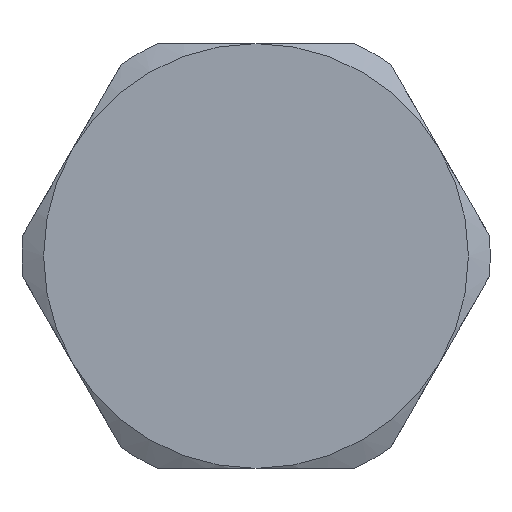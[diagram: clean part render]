
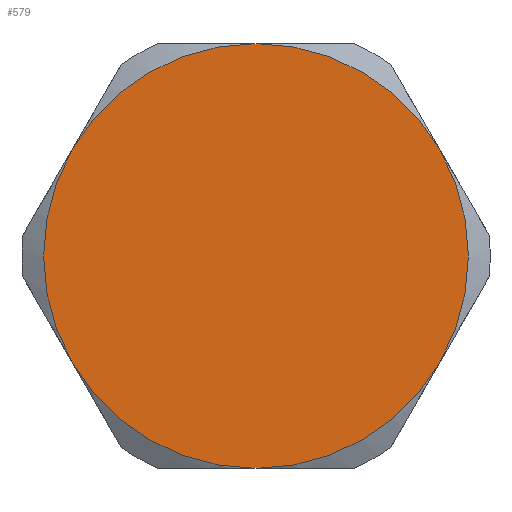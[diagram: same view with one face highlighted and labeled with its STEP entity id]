
A CAD part, left-side view. The second image highlights one B-rep face of the part: STEP entity #579.
In plain terms, the highlighted planar face has unit normal (-1, 0, 0).
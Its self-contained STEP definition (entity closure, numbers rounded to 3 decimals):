
#5 = DIRECTION ( 'NONE',  ( 1., 0., 0. ) ) ;
#10 = VERTEX_POINT ( 'NONE', #794 ) ;
#26 = CARTESIAN_POINT ( 'NONE',  ( -29., 36.806, 21.25 ) ) ;
#28 = EDGE_CURVE ( 'NONE', #869, #899, #841, .T. ) ;
#70 = AXIS2_PLACEMENT_3D ( 'NONE', #148, #192, #173 ) ;
#72 = DIRECTION ( 'NONE',  ( 1., 0., 0. ) ) ;
#81 = DIRECTION ( 'NONE',  ( 0., 1., 0. ) ) ;
#86 = CARTESIAN_POINT ( 'NONE',  ( -29., 0., 0. ) ) ;
#104 = ORIENTED_EDGE ( 'NONE', *, *, #865, .F. ) ;
#109 = CARTESIAN_POINT ( 'NONE',  ( -29., 0., 0. ) ) ;
#148 = CARTESIAN_POINT ( 'NONE',  ( -29., 0., 0. ) ) ;
#166 = VERTEX_POINT ( 'NONE', #181 ) ;
#169 = CARTESIAN_POINT ( 'NONE',  ( -29., 0., -42.5 ) ) ;
#173 = DIRECTION ( 'NONE',  ( 0., 1., 0. ) ) ;
#181 = CARTESIAN_POINT ( 'NONE',  ( -29., -36.806, 21.25 ) ) ;
#192 = DIRECTION ( 'NONE',  ( 1., 0., 0. ) ) ;
#222 = DIRECTION ( 'NONE',  ( 1., 0., 0. ) ) ;
#250 = AXIS2_PLACEMENT_3D ( 'NONE', #706, #5, #691 ) ;
#256 = DIRECTION ( 'NONE',  ( -1., 0., 0. ) ) ;
#262 = EDGE_CURVE ( 'NONE', #899, #973, #508, .T. ) ;
#289 = DIRECTION ( 'NONE',  ( 0., 1., 0. ) ) ;
#329 = ORIENTED_EDGE ( 'NONE', *, *, #262, .F. ) ;
#415 = DIRECTION ( 'NONE',  ( 1., 0., 0. ) ) ;
#439 = EDGE_LOOP ( 'NONE', ( #807, #329, #676, #104, #930, #806 ) ) ;
#470 = AXIS2_PLACEMENT_3D ( 'NONE', #109, #72, #804 ) ;
#481 = DIRECTION ( 'NONE',  ( 0., -1., 0. ) ) ;
#508 = CIRCLE ( 'NONE', #70, 42.5 ) ;
#516 = EDGE_CURVE ( 'NONE', #973, #10, #1070, .T. ) ;
#526 = PLANE ( 'NONE',  #1084 ) ;
#562 = CARTESIAN_POINT ( 'NONE',  ( -29., 42.5, 0. ) ) ;
#568 = DIRECTION ( 'NONE',  ( 0., 1., 0. ) ) ;
#572 = CARTESIAN_POINT ( 'NONE',  ( -29., 0., 0. ) ) ;
#575 = DIRECTION ( 'NONE',  ( 1., 0., 0. ) ) ;
#579 = ADVANCED_FACE ( 'NONE', ( #800 ), #526, .T. ) ;
#676 = ORIENTED_EDGE ( 'NONE', *, *, #28, .F. ) ;
#690 = CARTESIAN_POINT ( 'NONE',  ( -29., 0., 0. ) ) ;
#691 = DIRECTION ( 'NONE',  ( 0., 1., 0. ) ) ;
#696 = AXIS2_PLACEMENT_3D ( 'NONE', #690, #415, #289 ) ;
#706 = CARTESIAN_POINT ( 'NONE',  ( -29., 0., 0. ) ) ;
#793 = AXIS2_PLACEMENT_3D ( 'NONE', #572, #575, #568 ) ;
#794 = CARTESIAN_POINT ( 'NONE',  ( -29., 0., 42.5 ) ) ;
#798 = CIRCLE ( 'NONE', #696, 42.5 ) ;
#800 = FACE_OUTER_BOUND ( 'NONE', #439, .T. ) ;
#804 = DIRECTION ( 'NONE',  ( 0., 1., 0. ) ) ;
#806 = ORIENTED_EDGE ( 'NONE', *, *, #979, .F. ) ;
#807 = ORIENTED_EDGE ( 'NONE', *, *, #516, .F. ) ;
#839 = CIRCLE ( 'NONE', #250, 42.5 ) ;
#841 = CIRCLE ( 'NONE', #470, 42.5 ) ;
#865 = EDGE_CURVE ( 'NONE', #1015, #869, #798, .T. ) ;
#869 = VERTEX_POINT ( 'NONE', #169 ) ;
#871 = CARTESIAN_POINT ( 'NONE',  ( -29., -36.806, -21.25 ) ) ;
#889 = CIRCLE ( 'NONE', #1013, 42.5 ) ;
#899 = VERTEX_POINT ( 'NONE', #931 ) ;
#930 = ORIENTED_EDGE ( 'NONE', *, *, #933, .F. ) ;
#931 = CARTESIAN_POINT ( 'NONE',  ( -29., 36.806, -21.25 ) ) ;
#933 = EDGE_CURVE ( 'NONE', #166, #1015, #889, .T. ) ;
#973 = VERTEX_POINT ( 'NONE', #26 ) ;
#979 = EDGE_CURVE ( 'NONE', #10, #166, #839, .T. ) ;
#1013 = AXIS2_PLACEMENT_3D ( 'NONE', #86, #222, #81 ) ;
#1015 = VERTEX_POINT ( 'NONE', #871 ) ;
#1070 = CIRCLE ( 'NONE', #793, 42.5 ) ;
#1084 = AXIS2_PLACEMENT_3D ( 'NONE', #562, #256, #481 ) ;
